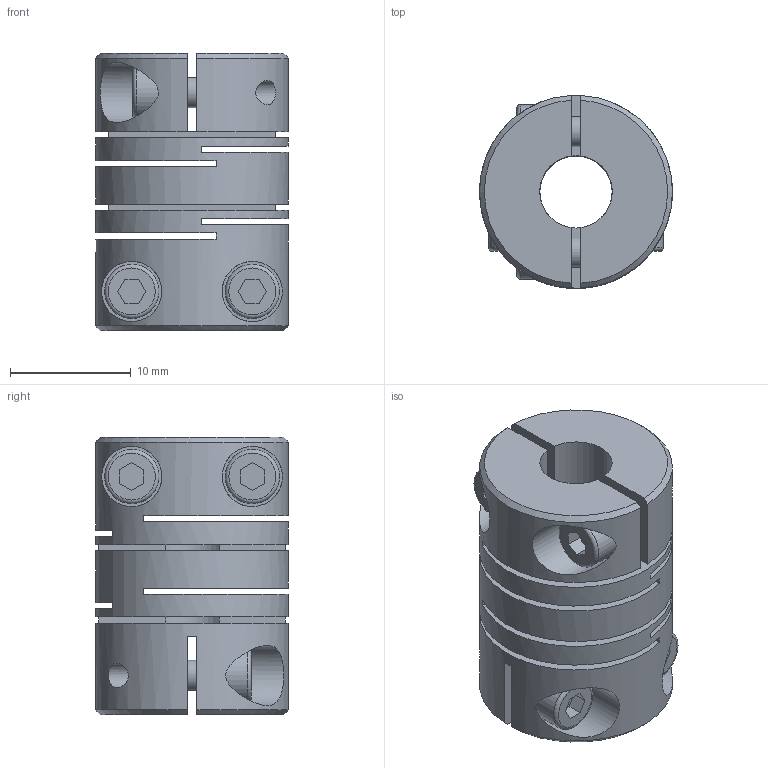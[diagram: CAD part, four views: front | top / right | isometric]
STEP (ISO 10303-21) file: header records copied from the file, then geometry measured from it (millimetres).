
FILE_DESCRIPTION (( 'STEP AP214' ), '1' );
FILE_NAME ('2246-16-B6-6-NI.step', '2022-05-27T09:30:49', ( '' ), ( '' ), 'SwSTEP 2.0', 'SolidWorks 2019', '' );
FILE_SCHEMA (( 'AUTOMOTIVE_DESIGN' ));
Length unit declared in the file: millimetre
Products named in the file (1): 2246-16-B6-6-NI
Bounding box: 16 x 15.99 x 23 mm (x, y, z)
Volume: 3346.7 mm3; surface area: 3937 mm2
Topology: 1 solids, 1 shells, 119 faces, 312 edges, 209 vertices
Faces by surface type: plane 82, cylinder 25, cone 8, torus 4
Full cylindrical faces by diameter (mm): 2.01 x4, 2.5 x4, 2.7 x4, 4.5 x4, 5 x4, 6 x2, 16 x1
Entity records: 4290 total; most frequent: CARTESIAN_POINT 944, DIRECTION 554, ORIENTED_EDGE 494, EDGE_CURVE 247, AXIS2_PLACEMENT_3D 203, EDGE_LOOP 190, VERTEX_POINT 181, LINE 148
